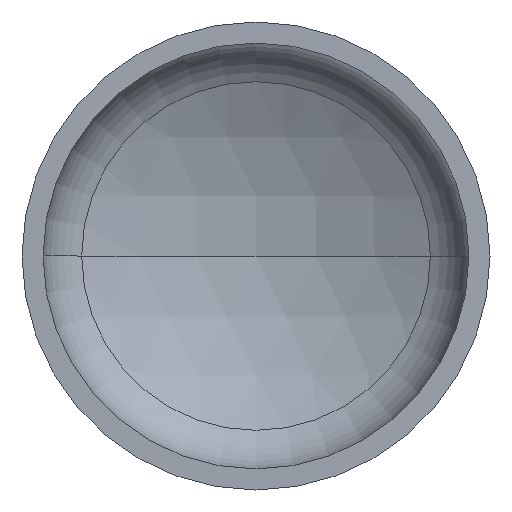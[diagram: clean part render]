
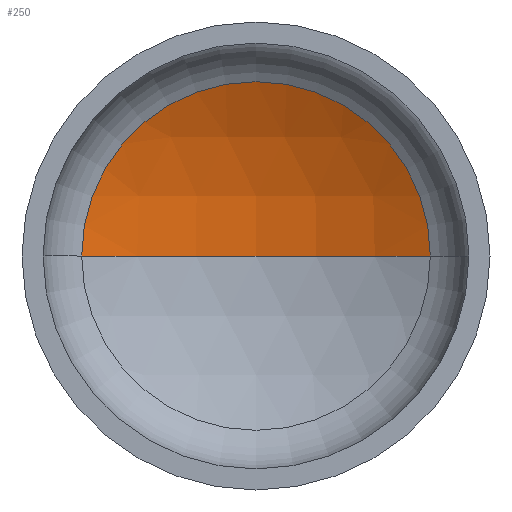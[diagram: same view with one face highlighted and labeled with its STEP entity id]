
A CAD part, front view. The second image highlights one B-rep face of the part: STEP entity #250.
In plain terms, the highlighted spherical face has radius 284 mm.
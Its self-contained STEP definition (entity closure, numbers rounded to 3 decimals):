
#9 = EDGE_LOOP ( 'NONE', ( #65, #25, #18 ) ) ;
#18 = ORIENTED_EDGE ( 'NONE', *, *, #149, .T. ) ;
#25 = ORIENTED_EDGE ( 'NONE', *, *, #151, .T. ) ;
#33 = AXIS2_PLACEMENT_3D ( 'NONE', #390, #69, #395 ) ;
#35 = DIRECTION ( 'NONE',  ( 1., 0., 0. ) ) ;
#39 = DIRECTION ( 'NONE',  ( 0., 0., 1. ) ) ;
#56 = VERTEX_POINT ( 'NONE', #260 ) ;
#65 = ORIENTED_EDGE ( 'NONE', *, *, #152, .F. ) ;
#69 = DIRECTION ( 'NONE',  ( 0., 0., -1. ) ) ;
#79 = AXIS2_PLACEMENT_3D ( 'NONE', #157, #39, #35 ) ;
#87 = AXIS2_PLACEMENT_3D ( 'NONE', #354, #218, #375 ) ;
#89 = AXIS2_PLACEMENT_3D ( 'NONE', #227, #229, #205 ) ;
#99 = VERTEX_POINT ( 'NONE', #239 ) ;
#109 = CIRCLE ( 'NONE', #87, 284. ) ;
#123 = VERTEX_POINT ( 'NONE', #238 ) ;
#149 = EDGE_CURVE ( 'NONE', #56, #99, #206, .T. ) ;
#151 = EDGE_CURVE ( 'NONE', #123, #56, #109, .T. ) ;
#152 = EDGE_CURVE ( 'NONE', #123, #99, #322, .T. ) ;
#157 = CARTESIAN_POINT ( 'NONE',  ( 0., -147.57, 0. ) ) ;
#182 = FACE_OUTER_BOUND ( 'NONE', #9, .T. ) ;
#205 = DIRECTION ( 'NONE',  ( 1., 0., 0. ) ) ;
#206 = CIRCLE ( 'NONE', #89, 132.451 ) ;
#218 = DIRECTION ( 'NONE',  ( 0., 0., -1. ) ) ;
#227 = CARTESIAN_POINT ( 'NONE',  ( 0., 103.652, 0. ) ) ;
#229 = DIRECTION ( 'NONE',  ( 0., -1., 0. ) ) ;
#238 = CARTESIAN_POINT ( 'NONE',  ( 0., 136.43, 0. ) ) ;
#239 = CARTESIAN_POINT ( 'NONE',  ( -132.451, 103.652, 0. ) ) ;
#250 = ADVANCED_FACE ( 'NONE', ( #182 ), #365, .F. ) ;
#260 = CARTESIAN_POINT ( 'NONE',  ( 132.451, 103.652, 0. ) ) ;
#322 = CIRCLE ( 'NONE', #79, 284. ) ;
#354 = CARTESIAN_POINT ( 'NONE',  ( 0., -147.57, 0. ) ) ;
#365 = SPHERICAL_SURFACE ( 'NONE', #33, 284. ) ;
#375 = DIRECTION ( 'NONE',  ( -1., 0., 0. ) ) ;
#390 = CARTESIAN_POINT ( 'NONE',  ( 0., -147.57, 0. ) ) ;
#395 = DIRECTION ( 'NONE',  ( -1., 0., 0. ) ) ;
